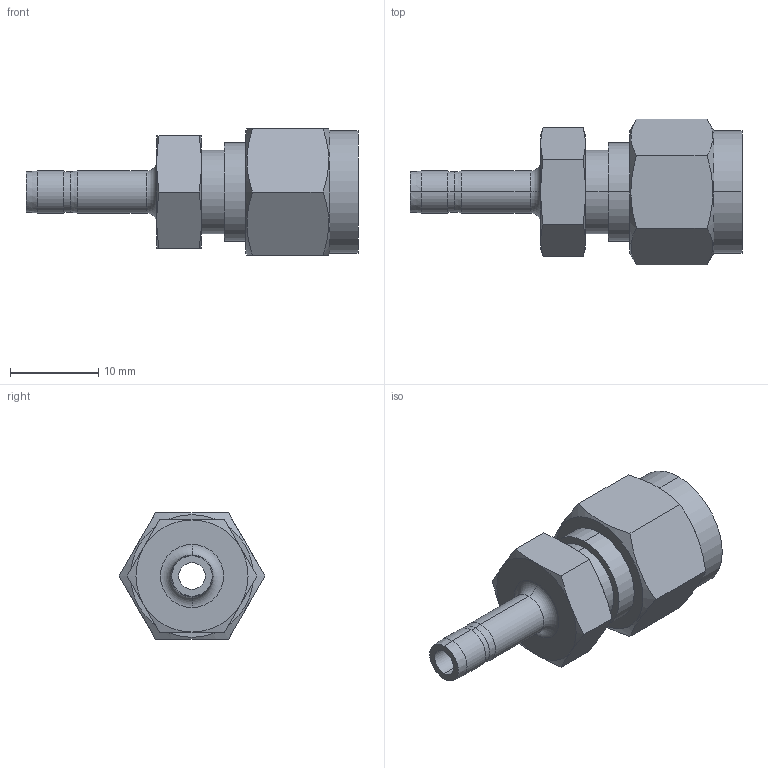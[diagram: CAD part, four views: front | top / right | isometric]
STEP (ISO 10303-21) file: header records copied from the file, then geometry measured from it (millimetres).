
FILE_DESCRIPTION (( 'STEP AP203' ), '1' );
FILE_NAME ('DRE04-03 SS.STEP', '2009-09-08T08:37:24', ( ' ' ), ( '' ), 'SwSTEP 2.0', 'SolidWorks 2008', '' );
FILE_SCHEMA (( 'CONFIG_CONTROL_DESIGN' ));
Length unit declared in the file: millimetre
Products named in the file (1): DRE04-03 SS
Bounding box: 37.6 x 16.5 x 14.29 mm (x, y, z)
Volume: 2876 mm3; surface area: 2179.8 mm2
Topology: 1 solids, 1 shells, 63 faces, 138 edges, 82 vertices
Faces by surface type: cone 24, plane 19, cylinder 18, torus 2
Entity records: 1917 total; most frequent: CARTESIAN_POINT 492, DIRECTION 282, ORIENTED_EDGE 276, EDGE_CURVE 138, AXIS2_PLACEMENT_3D 120, VERTEX_POINT 82, EDGE_LOOP 70, FACE_OUTER_BOUND 63
